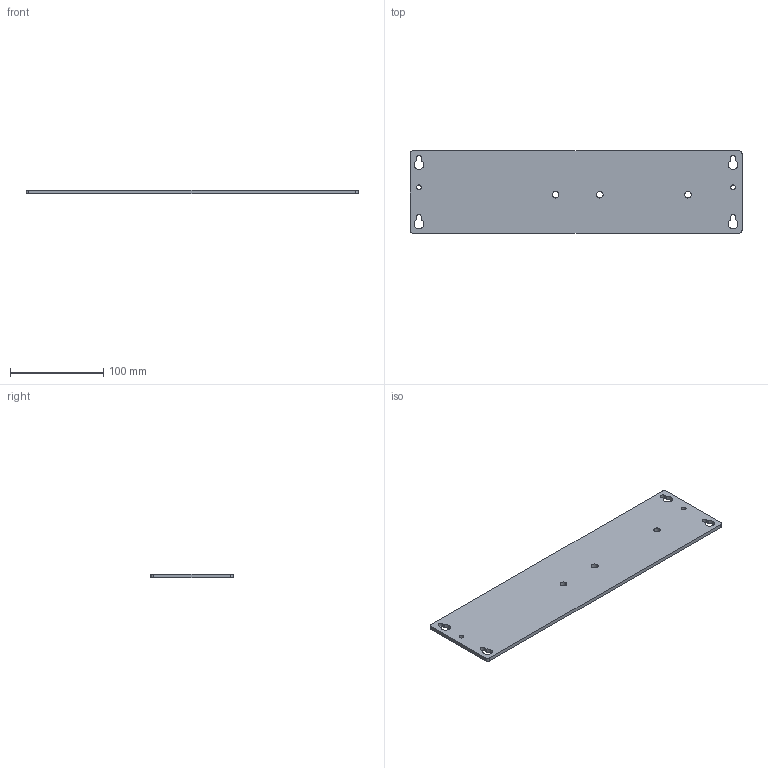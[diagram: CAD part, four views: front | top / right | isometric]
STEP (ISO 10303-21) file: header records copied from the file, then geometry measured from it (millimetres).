
FILE_DESCRIPTION((''),'2;1');
FILE_NAME('CU_PANELMOUNT_CRIO-906X_8SL','2015-12-09T',('jbuhisan'),(''),'PRO/ENGINEER BY PARAMETRIC TECHNOLOGY CORPORATION, 2014000','PRO/ENGINEER BY PARAMETRIC TECHNOLOGY CORPORATION, 2014000','');
FILE_SCHEMA(('CONFIG_CONTROL_DESIGN'));
Length unit declared in the file: inch
Products named in the file (1): CU_PANELMOUNT_CRIO-906X_8SL
Bounding box: 355.55 x 88.14 x 4 mm (x, y, z)
Volume: 122992.7 mm3; surface area: 66078.4 mm2
Topology: 1 solids, 1 shells, 36 faces, 102 edges, 68 vertices
Faces by surface type: cylinder 22, plane 14
Entity records: 1266 total; most frequent: DIRECTION 218, CARTESIAN_POINT 206, ORIENTED_EDGE 204, EDGE_CURVE 102, AXIS2_PLACEMENT_3D 80, VERTEX_POINT 68, VECTOR 58, LINE 58
